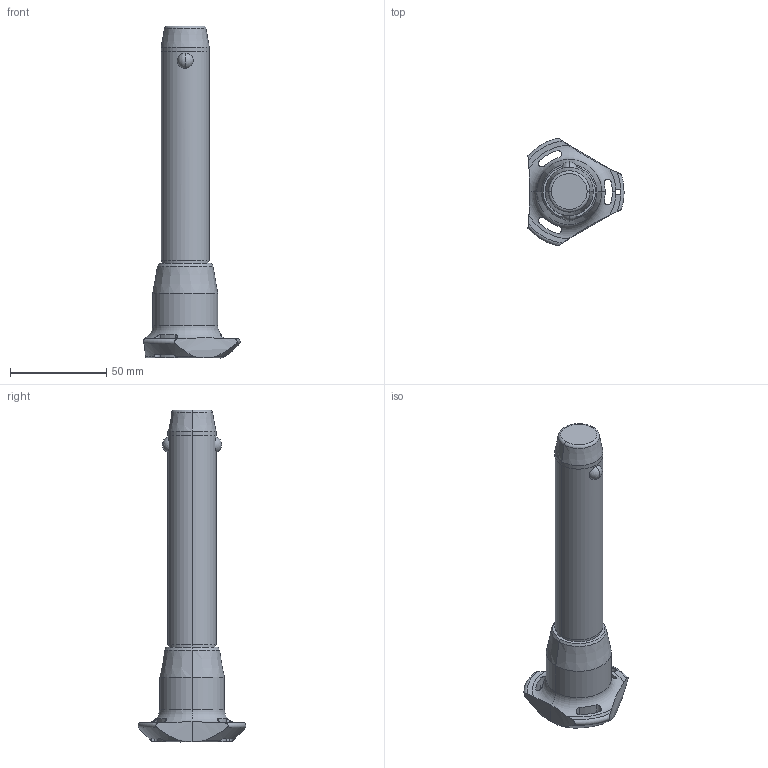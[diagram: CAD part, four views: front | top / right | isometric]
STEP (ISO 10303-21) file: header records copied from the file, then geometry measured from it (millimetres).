
FILE_DESCRIPTION (( 'STEP AP203' ), '1' );
FILE_NAME ('QR1726.M25-100-T.step', '2025-11-13T11:29:27', ( '' ), ( '' ), 'SwSTEP 2.0', 'SolidWorks 2019', '' );
FILE_SCHEMA (( 'CONFIG_CONTROL_DESIGN' ));
Length unit declared in the file: millimetre
Products named in the file (1): QR1726.M25-100-T
Bounding box: 50.04 x 56.02 x 172.7 mm (x, y, z)
Volume: 107539.2 mm3; surface area: 19303.8 mm2
Topology: 1 solids, 1 shells, 68 faces, 182 edges, 115 vertices
Faces by surface type: cylinder 32, cone 14, torus 11, sphere 6, plane 5
Entity records: 2938 total; most frequent: CARTESIAN_POINT 1192, ORIENTED_EDGE 364, DIRECTION 345, EDGE_CURVE 182, AXIS2_PLACEMENT_3D 154, VERTEX_POINT 115, CIRCLE 85, EDGE_LOOP 75
